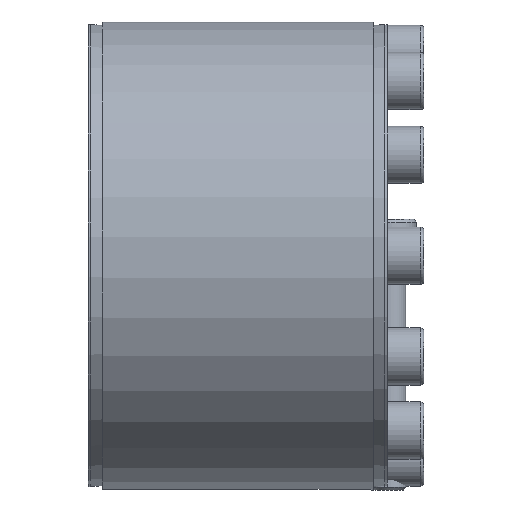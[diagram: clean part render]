
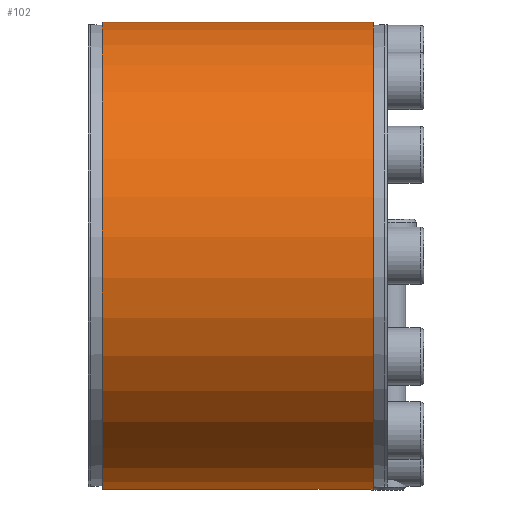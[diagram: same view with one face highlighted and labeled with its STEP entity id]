
A CAD part, left-side view. The second image highlights one B-rep face of the part: STEP entity #102.
In plain terms, the highlighted cylindrical face has radius 90 mm (diameter 180 mm), a partial arc.
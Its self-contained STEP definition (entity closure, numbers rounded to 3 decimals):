
#102 = ADVANCED_FACE( '', ( #253 ), #254, .T. );
#253 = FACE_OUTER_BOUND( '', #567, .T. );
#254 = CYLINDRICAL_SURFACE( '', #568, 90. );
#567 = EDGE_LOOP( '', ( #912, #913, #914, #915 ) );
#568 = AXIS2_PLACEMENT_3D( '', #916, #917, #918 );
#912 = ORIENTED_EDGE( '', *, *, #1443, .F. );
#913 = ORIENTED_EDGE( '', *, *, #1444, .T. );
#914 = ORIENTED_EDGE( '', *, *, #1445, .F. );
#915 = ORIENTED_EDGE( '', *, *, #1446, .F. );
#916 = CARTESIAN_POINT( '', ( 0., -60., 0. ) );
#917 = DIRECTION( '', ( 0., 1., 0. ) );
#918 = DIRECTION( '', ( 0., 0., -1. ) );
#1443 = EDGE_CURVE( '', #1690, #1691, #1692, .T. );
#1444 = EDGE_CURVE( '', #1690, #1693, #1694, .T. );
#1445 = EDGE_CURVE( '', #1695, #1693, #1696, .F. );
#1446 = EDGE_CURVE( '', #1691, #1695, #1697, .T. );
#1690 = VERTEX_POINT( '', #2125 );
#1691 = VERTEX_POINT( '', #2126 );
#1692 = LINE( '', #2127, #2128 );
#1693 = VERTEX_POINT( '', #2129 );
#1694 = CIRCLE( '', #2130, 90. );
#1695 = VERTEX_POINT( '', #2131 );
#1696 = LINE( '', #2132, #2133 );
#1697 = CIRCLE( '', #2134, 90. );
#2125 = CARTESIAN_POINT( '', ( 21.842, 109.5, 87.309 ) );
#2126 = CARTESIAN_POINT( '', ( 21.842, 5.5, 87.309 ) );
#2127 = CARTESIAN_POINT( '', ( 21.842, -60., 87.309 ) );
#2128 = VECTOR( '', #2503, 1000. );
#2129 = CARTESIAN_POINT( '', ( 24.739, 109.5, 86.533 ) );
#2130 = AXIS2_PLACEMENT_3D( '', #2504, #2505, #2506 );
#2131 = CARTESIAN_POINT( '', ( 24.739, 5.5, 86.533 ) );
#2132 = CARTESIAN_POINT( '', ( 24.739, -60., 86.533 ) );
#2133 = VECTOR( '', #2507, 1000. );
#2134 = AXIS2_PLACEMENT_3D( '', #2508, #2509, #2510 );
#2503 = DIRECTION( '', ( 0., -1., 0. ) );
#2504 = CARTESIAN_POINT( '', ( 0., 109.5, 0. ) );
#2505 = DIRECTION( '', ( 0., -1., 0. ) );
#2506 = DIRECTION( '', ( 0., 0., -1. ) );
#2507 = DIRECTION( '', ( 0., -1., 0. ) );
#2508 = CARTESIAN_POINT( '', ( 0., 5.5, 0. ) );
#2509 = DIRECTION( '', ( 0., -1., 0. ) );
#2510 = DIRECTION( '', ( 0., 0., -1. ) );
